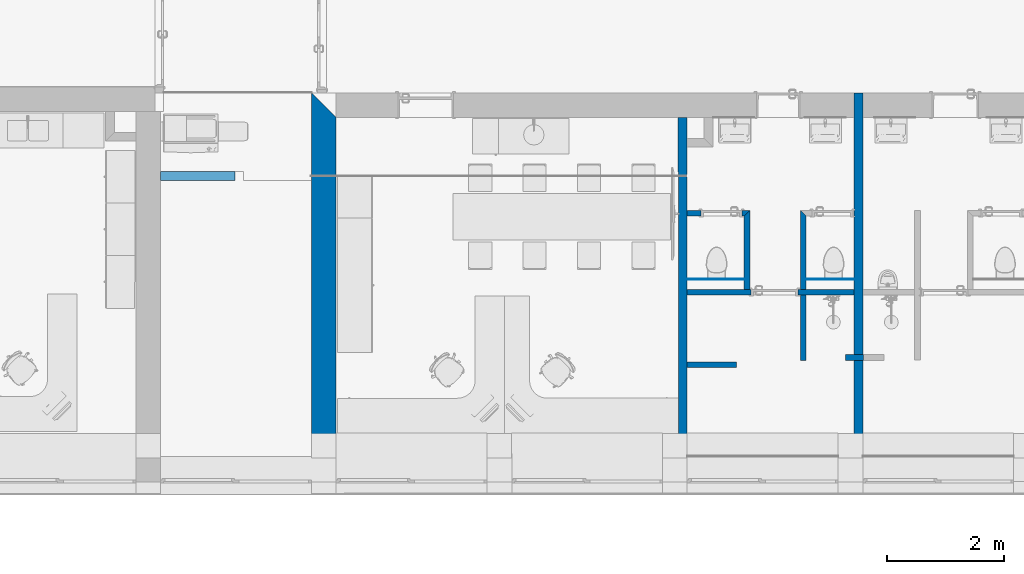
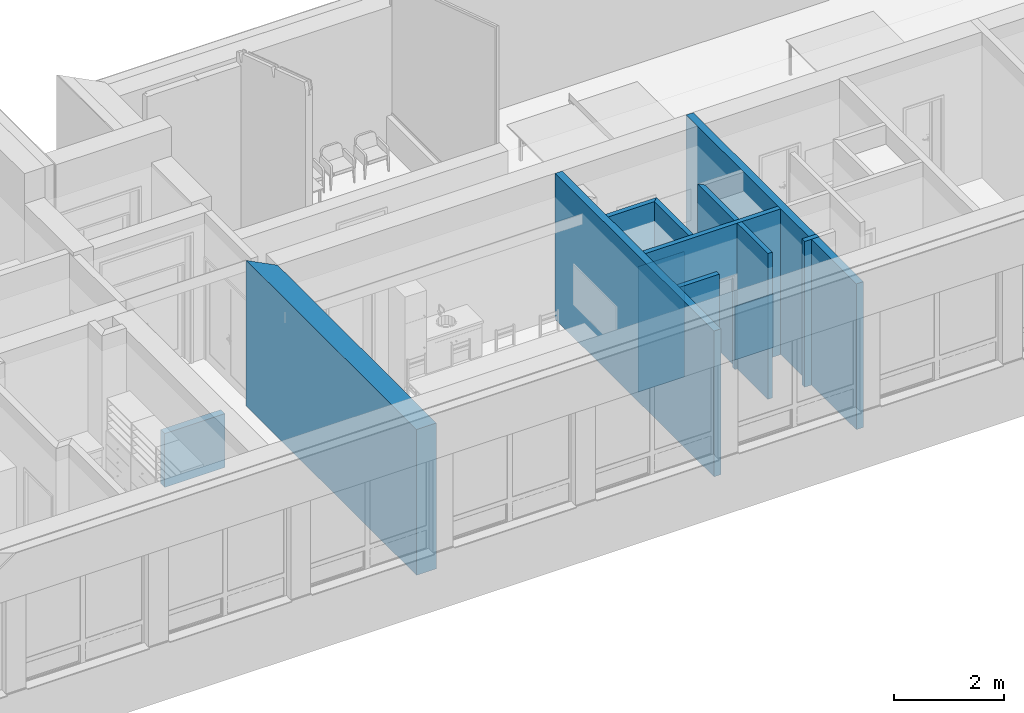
# One storey, part 21 of 194: 13 walls, 2 openings.
"""IFC2X3 building model written with IfcOpenShell, lengths in millimetres."""

from ifc_helpers import new_model, entity, si_unit, converted_unit, derived_unit, money_unit, direction, frame, origin_with_axes, origin_2d_with_axis, place, context, subcontext, project, spatial, polyline, rectangle, outline, extrude, material, layer, layer_set, layer_usage, type_object, element, save


model = new_model("IFC2X3")

# Units and contexts
model_context = context("Model", 3, precision=1e-05, world=origin_with_axes(), true_north=direction((0.0, 1.0)))
body_context = subcontext(model_context, "Body", "Model", "MODEL_VIEW")
ifc_project = project(units=[si_unit("LENGTHUNIT", "METRE", prefix="MILLI"), si_unit("AREAUNIT", "SQUARE_METRE"), si_unit("VOLUMEUNIT", "CUBIC_METRE"), converted_unit("PLANEANGLEUNIT", "DEGREE", entity("IfcPlaneAngleMeasure", 0.0174532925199), si_unit("PLANEANGLEUNIT", "RADIAN"), dimensions=[0, 0, 0, 0, 0, 0, 0]), si_unit("SOLIDANGLEUNIT", "STERADIAN"), money_unit("EUR"), converted_unit("TIMEUNIT", "Year", entity("IfcTimeMeasure", 31556926.0), si_unit("TIMEUNIT", "SECOND"), dimensions=[0, 0, 1, 0, 0, 0, 0]), si_unit("MASSUNIT", "GRAM", prefix="KILO"), si_unit("THERMODYNAMICTEMPERATUREUNIT", "DEGREE_CELSIUS"), si_unit("LUMINOUSINTENSITYUNIT", "LUMEN"), si_unit("ENERGYUNIT", "JOULE", prefix="MEGA"), derived_unit("THERMALCONDUCTANCEUNIT", [(si_unit("POWERUNIT", "WATT"), 1), (si_unit("LENGTHUNIT", "METRE"), -1), (si_unit("THERMODYNAMICTEMPERATUREUNIT", "KELVIN"), -1)]), derived_unit("SPECIFICHEATCAPACITYUNIT", [(si_unit("ENERGYUNIT", "JOULE"), 1), (si_unit("MASSUNIT", "GRAM", prefix="KILO"), -1), (si_unit("THERMODYNAMICTEMPERATUREUNIT", "KELVIN"), -1)]), derived_unit("MASSDENSITYUNIT", [(si_unit("MASSUNIT", "GRAM", prefix="KILO"), 1), (si_unit("VOLUMEUNIT", "CUBIC_METRE"), -1)])], contexts=[model_context])

# Site, building, storey
site_placement = place(None, origin_with_axes())
site = spatial("IfcSite", under=ifc_project, at=site_placement, Name="Site", CompositionType="ELEMENT")
building_placement = place(site_placement, origin_with_axes())
building = spatial("IfcBuilding", under=site, at=building_placement, Name="Building", CompositionType="ELEMENT")
storey_placement = place(building_placement, frame((0.0, 0.0, 3000.0), z_axis=(0.0, 0.0, 1.0), x_axis=(1.0, 0.0, 0.0)))
storey = spatial("IfcBuildingStorey", under=building, at=storey_placement, Name="2 KORRUS", CompositionType="ELEMENT", Elevation=3000.0)

# Walls
ifc_material_1 = material(Name="Kivi -Ol.Olev Konstruktsioon")
ifc_layer_1 = layer(ifc_material_1, 420.0, ventilated="UNKNOWN")
ifc_layer_set_1 = layer_set([ifc_layer_1], Name="ol.olev ss 420")
ifc_layer_usage_1 = layer_usage(ifc_layer_set_1, "AXIS2", "POSITIVE", 0.0)
wall_type_1 = type_object("IfcWallType", Name="SW - 022", PredefinedType="NOTDEFINED")
wall_1_placement = place(storey_placement, frame((63737.3527847, 41003.0649281, 0.0), z_axis=(0.0, 0.0, 1.0), x_axis=(0.0, -1.0, 0.0)))
element("IfcWallStandardCase", 1, at=wall_1_placement, inside=storey, type_object=wall_type_1, material=ifc_layer_usage_1, Name="ol.olev ss 420", context=body_context, shape_type="SweptSolid", body=[
    extrude(outline(polyline([(0.0, 0.0), (6219.48382791, 0.0), (6219.44802549, 420.0), (420.0, 420.0), (0.0, 0.0)])), origin_with_axes(), (0.0, 0.0, 1.0), 3250.0),
])
ifc_layer_2 = layer(ifc_material_1, 150.0, ventilated="UNKNOWN")
ifc_layer_set_2 = layer_set([ifc_layer_2], Name="ol.olev ss 150")
ifc_layer_usage_2 = layer_usage(ifc_layer_set_2, "AXIS2", "NEGATIVE", 0.0)
wall_2_placement = place(storey_placement, frame((70152.5657492, 41003.0665971, 0.0), z_axis=(0.0, 0.0, 1.0), x_axis=(0.000786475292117, -0.999999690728, 0.0)))
element("IfcWallStandardCase", 2, at=wall_2_placement, inside=storey, type_object=wall_type_1, material=ifc_layer_usage_2, Name="ol.olev ss 150", context=body_context, shape_type="SweptSolid", body=[
    extrude(outline(polyline([(419.883827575, -150.0), (6218.83496116, -150.0), (6218.9401459, -1.13686837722e-10), (420.001798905, 0.0), (419.883827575, -150.0)])), origin_with_axes(), (0.0, 0.0, 1.0), 3250.0),
])
ifc_layer_usage_3 = layer_usage(ifc_layer_set_2, "AXIS2", "NEGATIVE", 0.0)
wall_3_placement = place(storey_placement, frame((73157.4279343, 40995.8373834, 0.0), z_axis=(0.0, 0.0, 1.0), x_axis=(0.0, -1.0, 0.0)))
element("IfcWallStandardCase", 3, at=wall_3_placement, inside=storey, type_object=wall_type_1, material=ifc_layer_usage_3, Name="ol.olev ss 150", context=body_context, shape_type="SweptSolid", body=[
    extrude(outline(polyline([(0.0, -150.0), (6211.46606636, -150.0), (6211.45327978, 0.0), (0.0, 0.0), (0.0, -150.0)])), origin_with_axes(), (0.0, 0.0, 1.0), 3250.0),
])

# Wall, opening
ifc_layer_3 = layer(ifc_material_1, 100.0, ventilated="UNKNOWN")
ifc_layer_set_3 = layer_set([ifc_layer_3], Name="ol.olev ss 100")
ifc_layer_usage_4 = layer_usage(ifc_layer_set_3, "AXIS2", "POSITIVE", 0.0)
wall_4_placement = place(storey_placement, frame((70155.2857435, 37544.6064086, 0.0), z_axis=(0.0, 0.0, 1.0), x_axis=(1.0, 0.0, 0.0)))
wall_4 = element("IfcWallStandardCase", 4, at=wall_4_placement, inside=storey, type_object=wall_type_1, material=ifc_layer_usage_4, Name="ol.olev ss 100", context=body_context, shape_type="SweptSolid", body=[
    extrude(outline(polyline([(-5.68434188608e-10, 0.0), (2852.14219087, 0.0), (2852.14219087, 100.0), (-0.078647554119, 100.0), (-5.68434188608e-10, 0.0)])), origin_with_axes(), (0.0, 0.0, 1.0), 3250.0),
])
opening_1_placement = place(wall_4_placement, frame((1493.06581529, 0.0, 0.0), z_axis=(0.0, 0.0, 1.0), x_axis=(1.0, 0.0, 0.0)))
element("IfcOpeningElement", 5, at=opening_1_placement, cuts=wall_4, Name="Siseuks * Door 22", context=body_context, shape_type="SweptSolid", body=[
    extrude(rectangle(XDim=800.0, YDim=2100.0, at=origin_2d_with_axis()), frame((0.0, -100.0, 1050.0), z_axis=(0.0, 1.0, 0.0), x_axis=(1.0, 0.0, 0.0)), (0.0, 0.0, 1.0), 300.000000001),
    extrude(rectangle(XDim=874.0, YDim=2137.0, at=origin_2d_with_axis()), frame((0.0, 0.0, 1068.5), z_axis=(0.0, 1.0, 0.0), x_axis=(1.0, 0.0, 0.0)), (0.0, 0.0, -1.0), 100.0),
    extrude(rectangle(XDim=874.0, YDim=2137.0, at=origin_2d_with_axis()), frame((0.0, 100.0, 1068.5), z_axis=(0.0, -1.0, 0.0), x_axis=(1.0, 0.0, 0.0)), (0.0, 0.0, -1.0), 100.0),
])

# Walls
ifc_layer_usage_5 = layer_usage(ifc_layer_set_3, "AXIS2", "POSITIVE", -100.0)
wall_5_placement = place(storey_placement, frame((72866.2007048, 36525.9120767, 0.0), z_axis=(0.0, 0.0, 1.0), x_axis=(1.0, 0.0, 0.0)))
element("IfcWallStandardCase", 6, at=wall_5_placement, inside=storey, type_object=wall_type_1, material=ifc_layer_usage_5, Name="ol.olev ss 100", context=body_context, shape_type="SweptSolid", body=[
    extrude(outline(polyline([(0.0, -100.0), (302.610321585, -100.0), (302.610321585, 0.0), (0.0, 0.0), (0.0, -100.0)])), origin_with_axes(), (0.0, 0.0, 1.0), 3250.0),
])
ifc_layer_usage_6 = layer_usage(ifc_layer_set_3, "AXIS2", "POSITIVE", -100.0)
wall_6_placement = place(storey_placement, frame((70156.1820119, 36405.005279, 0.0), z_axis=(0.0, 0.0, 1.0), x_axis=(1.0, 0.0, 0.0)))
element("IfcWallStandardCase", 7, at=wall_6_placement, inside=storey, type_object=wall_type_1, material=ifc_layer_usage_6, Name="ol.olev ss 100", context=body_context, shape_type="SweptSolid", body=[
    extrude(outline(polyline([(0.0786475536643, -100.0), (841.685365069, -100.0), (841.685365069, 0.0), (1.13686837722e-10, 0.0), (0.0786475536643, -100.0)])), origin_with_axes(), (0.0, 0.0, 1.0), 3250.0),
])
ifc_layer_usage_7 = layer_usage(ifc_layer_set_3, "AXIS2", "POSITIVE", -100.0)
wall_7_placement = place(storey_placement, frame((72190.5515735, 37544.6064086, 0.0), z_axis=(0.0, 0.0, 1.0), x_axis=(0.0, -1.0, 0.0)))
element("IfcWallStandardCase", 8, at=wall_7_placement, inside=storey, type_object=wall_type_1, material=ifc_layer_usage_7, Name="ol.olev ss 100", context=body_context, shape_type="SweptSolid", body=[
    extrude(outline(polyline([(0.0, -100.0), (1118.69433187, -100.0), (1118.69433187, 0.0), (0.0, 0.0), (0.0, -100.0)])), origin_with_axes(), (0.0, 0.0, 1.0), 3250.0),
])
ifc_layer_usage_8 = layer_usage(ifc_layer_set_3, "AXIS2", "POSITIVE", -100.0)
wall_8_placement = place(storey_placement, frame((72190.5515735, 38994.6064083, 0.0), z_axis=(0.0, 0.0, 1.0), x_axis=(0.0, -1.0, 0.0)))
element("IfcWallStandardCase", 9, at=wall_8_placement, inside=storey, type_object=wall_type_1, material=ifc_layer_usage_8, Name="ol.olev ss 100", context=body_context, shape_type="SweptSolid", body=[
    extrude(outline(polyline([(0.0, -100.0), (1349.99999972, -100.0), (1349.99999972, 0.0), (100.0, 0.0), (0.0, -100.0)])), origin_with_axes(), (0.0, 0.0, 1.0), 3250.0),
])

# Wall, opening
ifc_layer_usage_9 = layer_usage(ifc_layer_set_3, "AXIS2", "POSITIVE", -100.0)
wall_9_placement = place(storey_placement, frame((70154.145354, 38994.6064083, 0.0), z_axis=(0.0, 0.0, 1.0), x_axis=(1.0, 0.0, 0.0)))
wall_9 = element("IfcWallStandardCase", 10, at=wall_9_placement, inside=storey, type_object=wall_type_1, material=ifc_layer_usage_9, Name="ol.olev ss 100", context=body_context, shape_type="SweptSolid", body=[
    extrude(outline(polyline([(0.0786475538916, -100.0), (971.875805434, -100.0), (1071.87580543, 0.0), (3.41060513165e-10, 0.0), (0.0786475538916, -100.0)])), origin_with_axes(), (0.0, 0.0, 1.0), 3250.0),
])
opening_2_placement = place(wall_9_placement, frame((590.053432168, 0.0, 0.0), z_axis=(0.0, 0.0, 1.0), x_axis=(1.0, 0.0, 0.0)))
element("IfcOpeningElement", 11, at=opening_2_placement, cuts=wall_9, Name="Siseuks * Door 22", context=body_context, shape_type="SweptSolid", body=[
    extrude(rectangle(XDim=699.999999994, YDim=2100.0, at=origin_2d_with_axis()), frame((0.0, -100.0, 1050.0), z_axis=(0.0, -1.0, 0.0), x_axis=(-1.0, 0.0, 0.0)), (0.0, 0.0, -1.0), 300.000000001),
    extrude(rectangle(XDim=773.999999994, YDim=2137.0, at=origin_2d_with_axis()), frame((0.0, -100.0, 1068.5), z_axis=(0.0, -1.0, 0.0), x_axis=(-1.0, 0.0, 0.0)), (0.0, 0.0, 1.0), 100.0),
    extrude(rectangle(XDim=773.999999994, YDim=2137.0, at=origin_2d_with_axis()), frame((0.0, 0.0, 1068.5), z_axis=(0.0, 1.0, 0.0), x_axis=(-1.0, 0.0, 0.0)), (0.0, 0.0, 1.0), 100.0),
])

# Walls
ifc_layer_usage_10 = layer_usage(ifc_layer_set_3, "AXIS2", "POSITIVE", -100.0)
wall_10_placement = place(storey_placement, frame((71226.0211594, 38994.6064083, 0.0), z_axis=(0.0, 0.0, 1.0), x_axis=(0.0, -1.0, 0.0)))
element("IfcWallStandardCase", 12, at=wall_10_placement, inside=storey, type_object=wall_type_1, material=ifc_layer_usage_10, Name="ol.olev ss 100", context=body_context, shape_type="SweptSolid", body=[
    extrude(outline(polyline([(100.0, -100.0), (1349.99999972, -100.0), (1349.99999972, 0.0), (0.0, 0.0), (100.0, -100.0)])), origin_with_axes(), (0.0, 0.0, 1.0), 3250.0),
])
ifc_layer_usage_11 = layer_usage(ifc_layer_set_2, "AXIS2", "NEGATIVE", 150.0)
wall_type_2 = type_object("IfcWallType", Name="SW - 037", PredefinedType="NOTDEFINED")
wall_11_placement = place(storey_placement, frame((61155.1743177, 39507.6435548, 0.0), z_axis=(0.0, 0.0, 1.0), x_axis=(1.0, 0.0, 0.0)))
element("IfcWallStandardCase", 13, at=wall_11_placement, inside=storey, type_object=wall_type_2, material=ifc_layer_usage_11, Name="ol.olev ss 150", context=body_context, shape_type="SweptSolid", body=[
    extrude(outline(polyline([(0.0, 0.0), (1271.03867796, 0.0), (1271.03867796, 150.0), (0.0, 150.0), (0.0, 0.0)])), origin_with_axes(), (0.0, 0.0, 1.0), 1200.0),
])
ifc_material_2 = material(Name="Kipsplaat")
ifc_layer_4 = layer(ifc_material_2, 13.0, ventilated="UNKNOWN")
ifc_layer_set_4 = layer_set([ifc_layer_4], Name="Kipsplaat 13")
ifc_layer_usage_12 = layer_usage(ifc_layer_set_4, "AXIS2", "NEGATIVE", 0.0)
wall_type_3 = type_object("IfcWallType", Name="loputuskasti raam", PredefinedType="NOTDEFINED")
wall_12_placement = place(storey_placement, frame((72190.5515735, 37820.6064086, 0.0), z_axis=(0.0, 0.0, 1.0), x_axis=(1.0, 0.0, 0.0)))
element("IfcWallStandardCase", 14, at=wall_12_placement, inside=storey, type_object=wall_type_3, material=ifc_layer_usage_12, Name="Kipsplaat", context=body_context, shape_type="SweptSolid", body=[
    extrude(outline(polyline([(0.0, -12.9999999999), (816.876360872, -12.9999999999), (816.876360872, 0.0), (0.0, 0.0), (0.0, -12.9999999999)])), origin_with_axes(), (0.0, 0.0, 1.0), 1200.0),
])
ifc_layer_usage_13 = layer_usage(ifc_layer_set_4, "AXIS2", "NEGATIVE", 0.0)
wall_13_placement = place(storey_placement, frame((70155.2070959, 37820.6064086, 0.0), z_axis=(0.0, 0.0, 1.0), x_axis=(1.0, 0.0, 0.0)))
element("IfcWallStandardCase", 15, at=wall_13_placement, inside=storey, type_object=wall_type_3, material=ifc_layer_usage_13, Name="Kipsplaat", context=body_context, shape_type="SweptSolid", body=[
    extrude(outline(polyline([(0.0, -12.9999999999), (970.814063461, -12.9999999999), (970.814063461, 0.0), (0.0, 0.0), (0.0, -12.9999999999)])), origin_with_axes(), (0.0, 0.0, 1.0), 2800.0),
])

save(model, "model.ifc")
